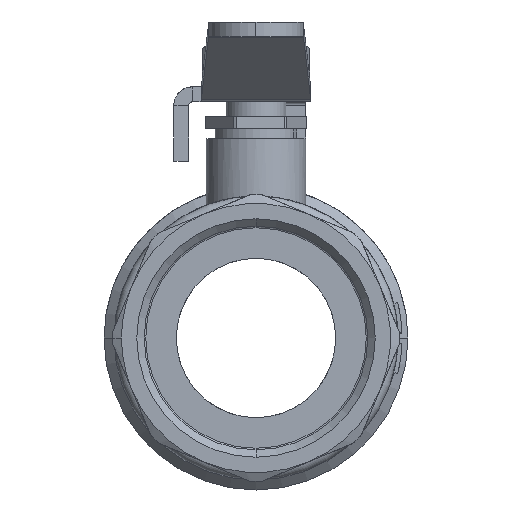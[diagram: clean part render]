
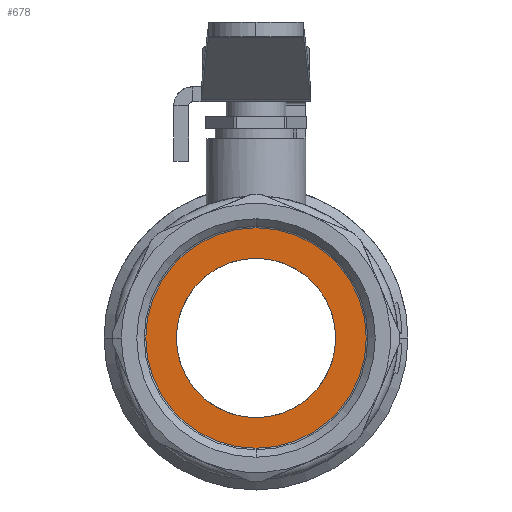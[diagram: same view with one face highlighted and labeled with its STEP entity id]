
A CAD part, left-side view. The second image highlights one B-rep face of the part: STEP entity #678.
In plain terms, the highlighted planar face has unit normal (-1, 0, 0).
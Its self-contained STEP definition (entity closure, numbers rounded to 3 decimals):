
#198=FACE_BOUND('',#1536,.T.);
#199=FACE_BOUND('',#1537,.T.);
#281=PLANE('',#7121);
#678=ADVANCED_FACE('',(#198,#199),#281,.T.);
#1536=EDGE_LOOP('',(#3728,#3729));
#1537=EDGE_LOOP('',(#3730,#3731));
#3728=ORIENTED_EDGE('',*,*,#5912,.T.);
#3729=ORIENTED_EDGE('',*,*,#5706,.T.);
#3730=ORIENTED_EDGE('',*,*,#5911,.F.);
#3731=ORIENTED_EDGE('',*,*,#5711,.F.);
#5009=VERTEX_POINT('',#10282);
#5010=VERTEX_POINT('',#10283);
#5013=VERTEX_POINT('',#10291);
#5014=VERTEX_POINT('',#10293);
#5706=EDGE_CURVE('',#5009,#5010,#6515,.T.);
#5711=EDGE_CURVE('',#5013,#5014,#6518,.T.);
#5911=EDGE_CURVE('',#5014,#5013,#6608,.T.);
#5912=EDGE_CURVE('',#5010,#5009,#6609,.T.);
#6515=CIRCLE('',#6943,16.);
#6518=CIRCLE('',#6947,22.122);
#6608=CIRCLE('',#7118,22.122);
#6609=CIRCLE('',#7120,16.);
#6943=AXIS2_PLACEMENT_3D('',#10281,#7935,#7936);
#6947=AXIS2_PLACEMENT_3D('',#10292,#7945,#7946);
#7118=AXIS2_PLACEMENT_3D('',#10793,#8369,#8370);
#7120=AXIS2_PLACEMENT_3D('',#10795,#8373,#8374);
#7121=AXIS2_PLACEMENT_3D('',#10796,#8375,#8376);
#7935=DIRECTION('',(1.,0.,0.));
#7936=DIRECTION('',(0.,0.,1.));
#7945=DIRECTION('',(1.,0.,0.));
#7946=DIRECTION('',(0.,0.,1.));
#8369=DIRECTION('',(1.,0.,0.));
#8370=DIRECTION('',(0.,0.,1.));
#8373=DIRECTION('',(1.,0.,0.));
#8374=DIRECTION('',(0.,0.,1.));
#8375=DIRECTION('',(-1.,0.,0.));
#8376=DIRECTION('',(0.,0.,-1.));
#10281=CARTESIAN_POINT('',(-32.631,0.,-1.402));
#10282=CARTESIAN_POINT('',(-32.631,0.,-17.402));
#10283=CARTESIAN_POINT('',(-32.631,0.,14.598));
#10291=CARTESIAN_POINT('',(-32.631,0.,-23.524));
#10292=CARTESIAN_POINT('',(-32.631,0.,-1.402));
#10293=CARTESIAN_POINT('',(-32.631,0.,20.721));
#10793=CARTESIAN_POINT('',(-32.631,0.,-1.402));
#10795=CARTESIAN_POINT('',(-32.631,0.,-1.402));
#10796=CARTESIAN_POINT('',(-32.631,0.,72.996));
